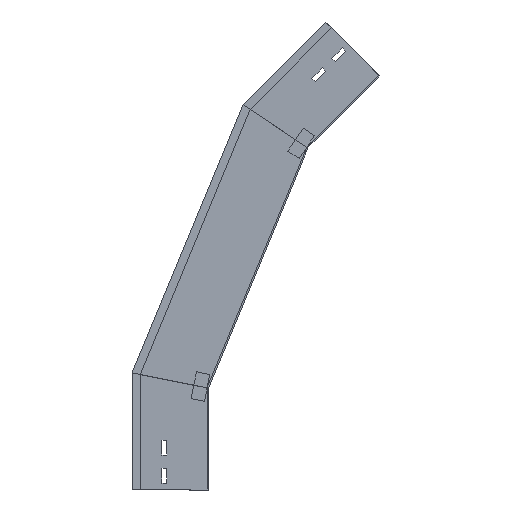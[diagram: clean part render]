
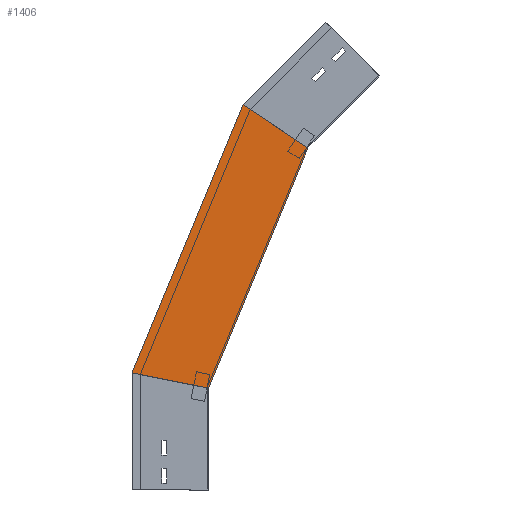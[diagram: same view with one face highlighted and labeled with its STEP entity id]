
A CAD part, left-side view. The second image highlights one B-rep face of the part: STEP entity #1406.
In plain terms, the highlighted planar face has unit normal (-1, 0, 0) as drawn and (1, 0, 0) by its records, which use the part's own axes.
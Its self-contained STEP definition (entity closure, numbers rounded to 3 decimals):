
#61 = VERTEX_POINT ( 'NONE', #570 ) ;
#80 = DIRECTION ( 'NONE',  ( 0., -0.383, 0.924 ) ) ;
#105 = VERTEX_POINT ( 'NONE', #1065 ) ;
#167 = DIRECTION ( 'NONE',  ( 1., 0., 0. ) ) ;
#375 = ORIENTED_EDGE ( 'NONE', *, *, #835, .F. ) ;
#392 = PLANE ( 'NONE',  #761 ) ;
#480 = CARTESIAN_POINT ( 'NONE',  ( 0., -28.701, 144.291 ) ) ;
#508 = VERTEX_POINT ( 'NONE', #1169 ) ;
#531 = DIRECTION ( 'NONE',  ( 0., -0.831, -0.556 ) ) ;
#570 = CARTESIAN_POINT ( 'NONE',  ( 0., 0., 150. ) ) ;
#656 = VECTOR ( 'NONE', #1052, 1000. ) ;
#701 = VECTOR ( 'NONE', #80, 1000. ) ;
#761 = AXIS2_PLACEMENT_3D ( 'NONE', #850, #167, #1329 ) ;
#765 = EDGE_CURVE ( 'NONE', #1331, #508, #1104, .T. ) ;
#769 = EDGE_CURVE ( 'NONE', #61, #508, #1484, .T. ) ;
#785 = LINE ( 'NONE', #480, #656 ) ;
#813 = ORIENTED_EDGE ( 'NONE', *, *, #769, .F. ) ;
#835 = EDGE_CURVE ( 'NONE', #105, #61, #785, .T. ) ;
#850 = CARTESIAN_POINT ( 'NONE',  ( 0., 9.458, 127.166 ) ) ;
#858 = CARTESIAN_POINT ( 'NONE',  ( 0., -51.195, 567.572 ) ) ;
#958 = FACE_OUTER_BOUND ( 'NONE', #1085, .T. ) ;
#977 = VECTOR ( 'NONE', #1383, 1000. ) ;
#978 = ORIENTED_EDGE ( 'NONE', *, *, #765, .T. ) ;
#998 = LINE ( 'NONE', #1119, #977 ) ;
#999 = CARTESIAN_POINT ( 'NONE',  ( 0., -212.704, 459.655 ) ) ;
#1014 = ORIENTED_EDGE ( 'NONE', *, *, #1128, .T. ) ;
#1052 = DIRECTION ( 'NONE',  ( 0., -0.981, -0.195 ) ) ;
#1065 = CARTESIAN_POINT ( 'NONE',  ( 0., 112.5, 172.378 ) ) ;
#1085 = EDGE_LOOP ( 'NONE', ( #1014, #978, #813, #375 ) ) ;
#1104 = LINE ( 'NONE', #999, #1495 ) ;
#1119 = CARTESIAN_POINT ( 'NONE',  ( 0., 113.395, 170.218 ) ) ;
#1128 = EDGE_CURVE ( 'NONE', #105, #1331, #998, .T. ) ;
#1169 = CARTESIAN_POINT ( 'NONE',  ( 0., -146.568, 503.846 ) ) ;
#1329 = DIRECTION ( 'NONE',  ( 0., 0., -1. ) ) ;
#1331 = VERTEX_POINT ( 'NONE', #858 ) ;
#1374 = CARTESIAN_POINT ( 'NONE',  ( 0., 9.458, 127.166 ) ) ;
#1383 = DIRECTION ( 'NONE',  ( 0., -0.383, 0.924 ) ) ;
#1406 = ADVANCED_FACE ( 'NONE', ( #958 ), #392, .T. ) ;
#1484 = LINE ( 'NONE', #1374, #701 ) ;
#1495 = VECTOR ( 'NONE', #531, 1000. ) ;
